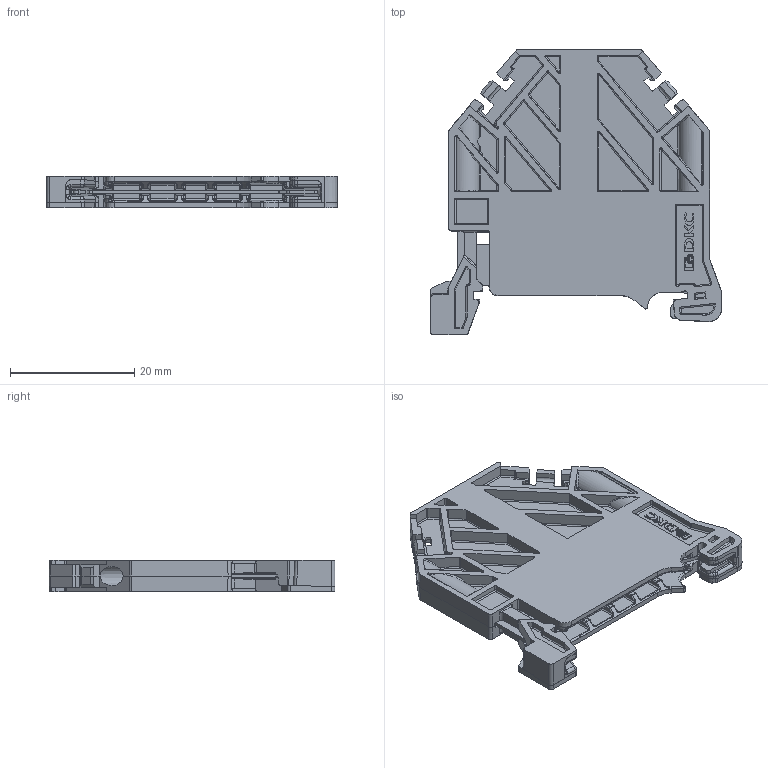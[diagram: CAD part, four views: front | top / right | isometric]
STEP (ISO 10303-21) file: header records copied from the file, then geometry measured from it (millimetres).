
FILE_DESCRIPTION (( 'STEP AP214' ), '1' );
FILE_NAME ('ZBT008.STEP', '2023-11-22T07:30:42', ( '1' ), ( '' ), 'SwSTEP 2.0', 'SolidWorks 2022', '' );
FILE_SCHEMA (( 'AUTOMOTIVE_DESIGN' ));
Length unit declared in the file: millimetre
Products named in the file (3): TPA.08.0033.00.02.0; ZBT008; TPA.08.0033.00.01.0
Assembly tree (2 placements, depth 2):
  ZBT008
    TPA.08.0033.00.01.0
    TPA.08.0033.00.02.0
Bounding box: 46.83 x 46.01 x 5 mm (x, y, z)
Volume: 4343.9 mm3; surface area: 8664.7 mm2
Topology: 2 solids, 2 shells, 1883 faces, 4796 edges, 2763 vertices
Faces by surface type: cylinder 699, plane 633, bspline 299, sphere 201, cone 35, torus 16
Entity records: 59164 total; most frequent: CARTESIAN_POINT 18549, ORIENTED_EDGE 9188, DIRECTION 7562, EDGE_CURVE 4594, VERTEX_POINT 2756, AXIS2_PLACEMENT_3D 2592, VECTOR 2378, LINE 2378
